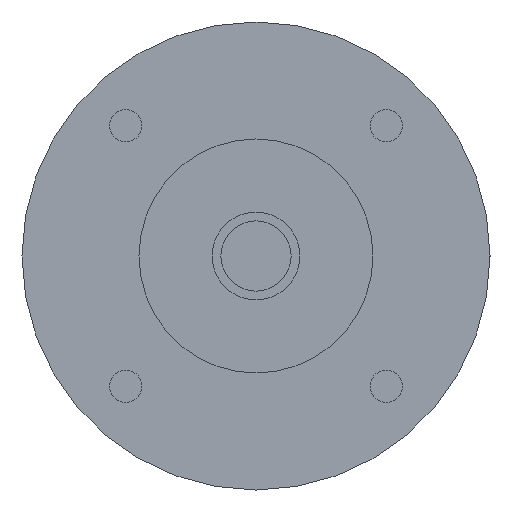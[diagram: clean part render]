
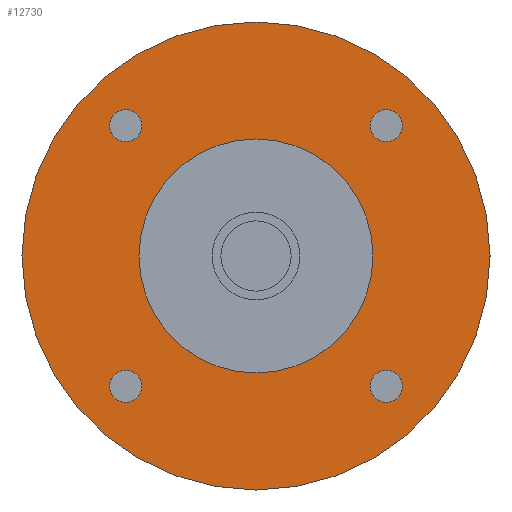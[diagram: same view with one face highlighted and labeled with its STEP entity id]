
A CAD part, left-side view. The second image highlights one B-rep face of the part: STEP entity #12730.
In plain terms, the highlighted planar face has unit normal (-1, 0, 0) as drawn and (0, 0, -1) by its records, which use the part's own axes.
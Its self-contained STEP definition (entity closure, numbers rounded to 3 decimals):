
#11590=CARTESIAN_POINT('',(-40.,0.,-42.2));
#11600=VERTEX_POINT('',#11590);
#11690=CARTESIAN_POINT('',(40.,0.,-42.2));
#11700=VERTEX_POINT('',#11690);
#11730=CARTESIAN_POINT('',(0.,0.,
-42.2));
#11740=DIRECTION('',(0.,0.,1.));
#11750=DIRECTION('',(1.,0.,0.));
#11760=AXIS2_PLACEMENT_3D('',#11730,#11740,#11750);
#11770=CIRCLE('',#11760,40.);
#11780=CARTESIAN_POINT('',(0.,-40.,-42.2));
#11790=VERTEX_POINT('',#11780);
#11800=EDGE_CURVE('',#11790,#11700,#11770,.T.);
#11820=EDGE_CURVE('',#11600,#11790,#11770,.T.);
#11870=CARTESIAN_POINT('',(0.,0.,
-42.2));
#11880=DIRECTION('',(0.,0.,-1.));
#11890=DIRECTION('',(1.,0.,0.));
#11900=AXIS2_PLACEMENT_3D('',#11870,#11880,#11890);
#11910=PLANE('',#11900);
#11920=CARTESIAN_POINT('',(22.274,22.274,-42.2));
#11930=DIRECTION('',(0.,0.,-1.));
#11940=DIRECTION('',(0.,1.,0.));
#11950=AXIS2_PLACEMENT_3D('',#11920,#11930,#11940);
#11960=CIRCLE('',#11950,2.75);
#11970=CARTESIAN_POINT('',(22.274,25.024,-42.2));
#11980=VERTEX_POINT('',#11970);
#11990=CARTESIAN_POINT('',(22.274,19.524,-42.2));
#12000=VERTEX_POINT('',#11990);
#12010=EDGE_CURVE('',#11980,#12000,#11960,.T.);
#12020=ORIENTED_EDGE('',*,*,#12010,.F.);
#12030=EDGE_CURVE('',#12000,#11980,#11960,.T.);
#12040=ORIENTED_EDGE('',*,*,#12030,.F.);
#12050=EDGE_LOOP('',(#12040,#12020));
#12060=FACE_BOUND('',#12050,.T.);
#12070=CARTESIAN_POINT('',(-22.274,22.274,-42.2));
#12080=DIRECTION('',(0.,0.,-1.));
#12090=DIRECTION('',(-1.,0.,0.));
#12100=AXIS2_PLACEMENT_3D('',#12070,#12080,#12090);
#12110=CIRCLE('',#12100,2.75);
#12120=CARTESIAN_POINT('',(-25.024,22.274,-42.2));
#12130=VERTEX_POINT('',#12120);
#12140=CARTESIAN_POINT('',(-19.524,22.274,-42.2));
#12150=VERTEX_POINT('',#12140);
#12160=EDGE_CURVE('',#12130,#12150,#12110,.T.);
#12170=ORIENTED_EDGE('',*,*,#12160,.F.);
#12180=EDGE_CURVE('',#12150,#12130,#12110,.T.);
#12190=ORIENTED_EDGE('',*,*,#12180,.F.);
#12200=EDGE_LOOP('',(#12190,#12170));
#12210=FACE_BOUND('',#12200,.T.);
#12220=CARTESIAN_POINT('',(-22.274,-22.274,-42.2));
#12230=DIRECTION('',(0.,0.,-1.));
#12240=DIRECTION('',(0.,-1.,0.));
#12250=AXIS2_PLACEMENT_3D('',#12220,#12230,#12240);
#12260=CIRCLE('',#12250,2.75);
#12270=CARTESIAN_POINT('',(-22.274,-25.024,-42.2));
#12280=VERTEX_POINT('',#12270);
#12290=CARTESIAN_POINT('',(-22.274,-19.524,-42.2));
#12300=VERTEX_POINT('',#12290);
#12310=EDGE_CURVE('',#12280,#12300,#12260,.T.);
#12320=ORIENTED_EDGE('',*,*,#12310,.F.);
#12330=EDGE_CURVE('',#12300,#12280,#12260,.T.);
#12340=ORIENTED_EDGE('',*,*,#12330,.F.);
#12350=EDGE_LOOP('',(#12340,#12320));
#12360=FACE_BOUND('',#12350,.T.);
#12370=CARTESIAN_POINT('',(0.,0.,
-42.2));
#12380=DIRECTION('',(0.,0.,-1.));
#12390=DIRECTION('',(-1.,0.,0.));
#12400=AXIS2_PLACEMENT_3D('',#12370,#12380,#12390);
#12410=CIRCLE('',#12400,20.);
#12420=CARTESIAN_POINT('',(-20.,0.,-42.2));
#12430=VERTEX_POINT('',#12420);
#12440=CARTESIAN_POINT('',(20.,0.,-42.2));
#12450=VERTEX_POINT('',#12440);
#12460=EDGE_CURVE('',#12430,#12450,#12410,.T.);
#12470=ORIENTED_EDGE('',*,*,#12460,.F.);
#12480=EDGE_CURVE('',#12450,#12430,#12410,.T.);
#12490=ORIENTED_EDGE('',*,*,#12480,.F.);
#12500=EDGE_LOOP('',(#12490,#12470));
#12510=FACE_BOUND('',#12500,.T.);
#12520=CARTESIAN_POINT('',(22.274,-22.274,-42.2));
#12530=DIRECTION('',(0.,0.,-1.));
#12540=DIRECTION('',(1.,0.,0.));
#12550=AXIS2_PLACEMENT_3D('',#12520,#12530,#12540);
#12560=CIRCLE('',#12550,2.75);
#12570=CARTESIAN_POINT('',(25.024,-22.274,-42.2));
#12580=VERTEX_POINT('',#12570);
#12590=CARTESIAN_POINT('',(19.524,-22.274,-42.2));
#12600=VERTEX_POINT('',#12590);
#12610=EDGE_CURVE('',#12580,#12600,#12560,.T.);
#12620=ORIENTED_EDGE('',*,*,#12610,.F.);
#12630=EDGE_CURVE('',#12600,#12580,#12560,.T.);
#12640=ORIENTED_EDGE('',*,*,#12630,.F.);
#12650=EDGE_LOOP('',(#12640,#12620));
#12660=FACE_BOUND('',#12650,.T.);
#12670=ORIENTED_EDGE('',*,*,#11800,.F.);
#12680=EDGE_CURVE('',#11700,#11600,#11770,.T.);
#12690=ORIENTED_EDGE('',*,*,#12680,.F.);
#12700=ORIENTED_EDGE('',*,*,#11820,.F.);
#12710=EDGE_LOOP('',(#12700,#12690,#12670));
#12720=FACE_OUTER_BOUND('',#12710,.T.);
#12730=ADVANCED_FACE('',(#12060,#12210,#12360,#12510,#12660,#12720),
#11910,.T.);
